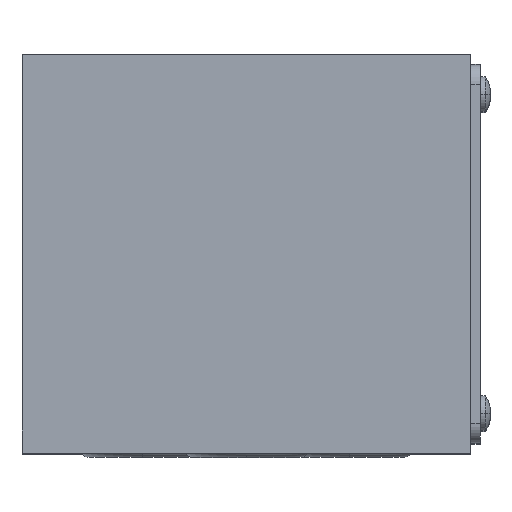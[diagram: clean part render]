
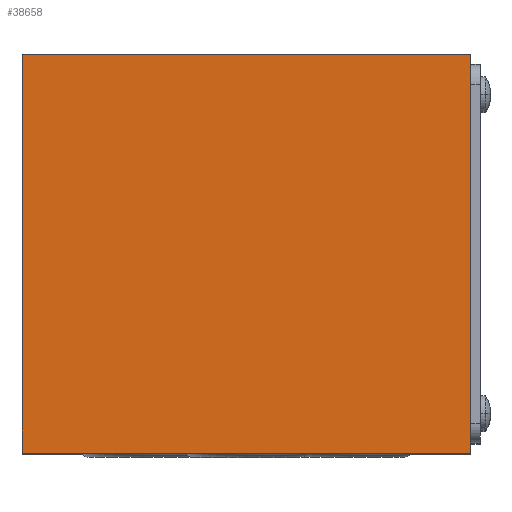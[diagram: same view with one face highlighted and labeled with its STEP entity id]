
A CAD part, top view. The second image highlights one B-rep face of the part: STEP entity #38658.
In plain terms, the highlighted planar face has unit normal (0, 0, 1).
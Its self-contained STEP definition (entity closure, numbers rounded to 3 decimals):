
#150 = ORIENTED_EDGE ( 'NONE', *, *, #51570, .F. ) ;
#449 = LINE ( 'NONE', #2975, #12693 ) ;
#2975 = CARTESIAN_POINT ( 'NONE',  ( -22.5, 20., 32. ) ) ;
#5459 = PLANE ( 'NONE',  #36486 ) ;
#5669 = DIRECTION ( 'NONE',  ( 0., 0., -1. ) ) ;
#6973 = CARTESIAN_POINT ( 'NONE',  ( 22.5, 20., 32. ) ) ;
#7863 = CARTESIAN_POINT ( 'NONE',  ( -22.5, -20., 32. ) ) ;
#7984 = CARTESIAN_POINT ( 'NONE',  ( 22.5, -20., 32. ) ) ;
#9283 = CARTESIAN_POINT ( 'NONE',  ( 22.5, 20., 32. ) ) ;
#11407 = ORIENTED_EDGE ( 'NONE', *, *, #43816, .F. ) ;
#12102 = VECTOR ( 'NONE', #23343, 1000. ) ;
#12693 = VECTOR ( 'NONE', #30551, 1000. ) ;
#13137 = LINE ( 'NONE', #25305, #36172 ) ;
#16586 = VERTEX_POINT ( 'NONE', #7863 ) ;
#16946 = LINE ( 'NONE', #6973, #29242 ) ;
#18663 = VERTEX_POINT ( 'NONE', #46759 ) ;
#19379 = ORIENTED_EDGE ( 'NONE', *, *, #20304, .F. ) ;
#20304 = EDGE_CURVE ( 'NONE', #18663, #59308, #24349, .T. ) ;
#23343 = DIRECTION ( 'NONE',  ( 1., 0., 0. ) ) ;
#24349 = LINE ( 'NONE', #9283, #12102 ) ;
#24968 = ORIENTED_EDGE ( 'NONE', *, *, #40132, .F. ) ;
#25305 = CARTESIAN_POINT ( 'NONE',  ( 22.5, -20., 32. ) ) ;
#29242 = VECTOR ( 'NONE', #29756, 1000. ) ;
#29756 = DIRECTION ( 'NONE',  ( 0., -1., 0. ) ) ;
#29974 = DIRECTION ( 'NONE',  ( -1., 0., 0. ) ) ;
#30361 = EDGE_LOOP ( 'NONE', ( #24968, #19379, #11407, #150 ) ) ;
#30551 = DIRECTION ( 'NONE',  ( 0., 1., 0. ) ) ;
#33252 = CARTESIAN_POINT ( 'NONE',  ( 22.5, -20., 32. ) ) ;
#34547 = CARTESIAN_POINT ( 'NONE',  ( 22.5, 20., 32. ) ) ;
#35700 = FACE_OUTER_BOUND ( 'NONE', #30361, .T. ) ;
#36172 = VECTOR ( 'NONE', #29974, 1000. ) ;
#36486 = AXIS2_PLACEMENT_3D ( 'NONE', #33252, #5669, #37882 ) ;
#37882 = DIRECTION ( 'NONE',  ( -1., 0., 0. ) ) ;
#38658 = ADVANCED_FACE ( 'NONE', ( #35700 ), #5459, .F. ) ;
#40132 = EDGE_CURVE ( 'NONE', #59308, #59084, #16946, .T. ) ;
#43816 = EDGE_CURVE ( 'NONE', #16586, #18663, #449, .T. ) ;
#46759 = CARTESIAN_POINT ( 'NONE',  ( -22.5, 20., 32. ) ) ;
#51570 = EDGE_CURVE ( 'NONE', #59084, #16586, #13137, .T. ) ;
#59084 = VERTEX_POINT ( 'NONE', #7984 ) ;
#59308 = VERTEX_POINT ( 'NONE', #34547 ) ;
